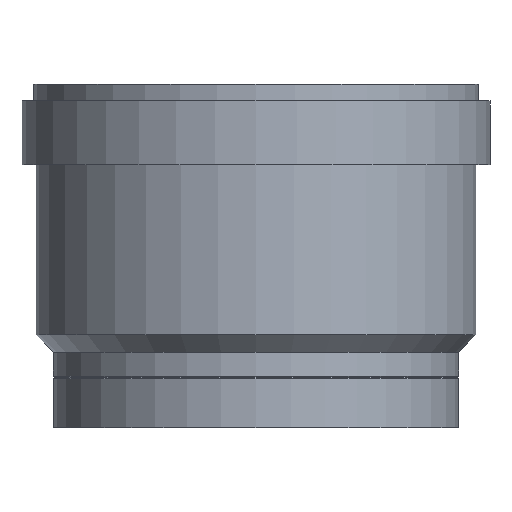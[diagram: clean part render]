
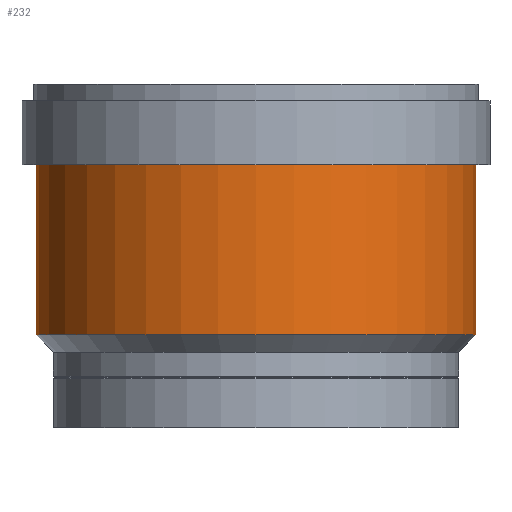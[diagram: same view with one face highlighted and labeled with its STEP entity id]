
A CAD part, front view. The second image highlights one B-rep face of the part: STEP entity #232.
In plain terms, the highlighted cylindrical face has radius 87.15 mm (diameter 174.3 mm), a full revolution.
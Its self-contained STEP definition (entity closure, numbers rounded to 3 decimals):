
#23=CYLINDRICAL_SURFACE('',#281,87.15);
#37=FACE_BOUND('',#84,.T.);
#56=FACE_OUTER_BOUND('',#83,.T.);
#83=EDGE_LOOP('',(#178));
#84=EDGE_LOOP('',(#179));
#114=CIRCLE('',#280,87.15);
#115=CIRCLE('',#282,87.15);
#133=VERTEX_POINT('',#406);
#134=VERTEX_POINT('',#409);
#152=EDGE_CURVE('',#133,#133,#114,.T.);
#153=EDGE_CURVE('',#134,#134,#115,.T.);
#178=ORIENTED_EDGE('',*,*,#152,.T.);
#179=ORIENTED_EDGE('',*,*,#153,.F.);
#232=ADVANCED_FACE('',(#56,#37),#23,.T.);
#280=AXIS2_PLACEMENT_3D('',#407,#337,#338);
#281=AXIS2_PLACEMENT_3D('',#408,#339,#340);
#282=AXIS2_PLACEMENT_3D('',#410,#341,#342);
#337=DIRECTION('center_axis',(0.,0.,-1.));
#338=DIRECTION('ref_axis',(1.,0.,0.));
#339=DIRECTION('center_axis',(0.,0.,-1.));
#340=DIRECTION('ref_axis',(-1.,0.,0.));
#341=DIRECTION('center_axis',(0.,0.,-1.));
#342=DIRECTION('ref_axis',(1.,0.,0.));
#406=CARTESIAN_POINT('',(-87.15,0.,-32.));
#407=CARTESIAN_POINT('Origin',(0.,0.,-32.));
#408=CARTESIAN_POINT('Origin',(0.,0.,-65.669));
#409=CARTESIAN_POINT('',(-87.15,0.,-99.337));
#410=CARTESIAN_POINT('Origin',(0.,0.,-99.337));
